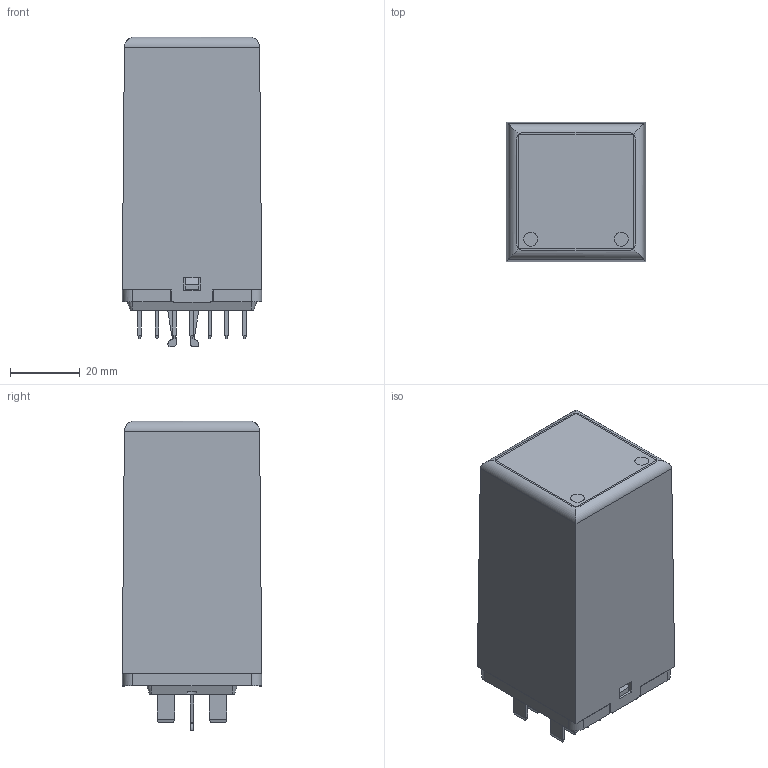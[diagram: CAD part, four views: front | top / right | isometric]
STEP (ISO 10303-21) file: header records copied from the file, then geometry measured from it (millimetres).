
FILE_DESCRIPTION((''),'2;1');
FILE_NAME('I:\TI\Bibliotheek\Inventor\Relais\WDE4\WDE4-U200.stp','2011-03-09T07:40:28',('oey'),(''),'Autodesk Inventor 2011','Autodesk Inventor 2011','');
FILE_SCHEMA(('AUTOMOTIVE_DESIGN { 1 0 10303 214 1 1 1 1 }'));
Length unit declared in the file: millimetre
Products named in the file (1): WDE4-U200
Bounding box: 40 x 40.06 x 88.85 mm (x, y, z)
Volume: 31426.2 mm3; surface area: 37926.1 mm2
Topology: 1 solids, 3 shells, 1526 faces, 4601 edges, 3007 vertices
Faces by surface type: plane 901, cylinder 427, bspline 128, sphere 56, cone 12, torus 2
Full cylindrical faces by diameter (mm): 1.7 x2, 2 x3, 2.69 x1, 2.7 x5, 3.3 x1, 3.5 x1, 4 x10, 4.5 x1, 5 x1
Entity records: 55011 total; most frequent: CARTESIAN_POINT 11292, ORIENTED_EDGE 9290, DIRECTION 8367, EDGE_CURVE 4645, VECTOR 3229, LINE 3229, VERTEX_POINT 2994, AXIS2_PLACEMENT_3D 2569
